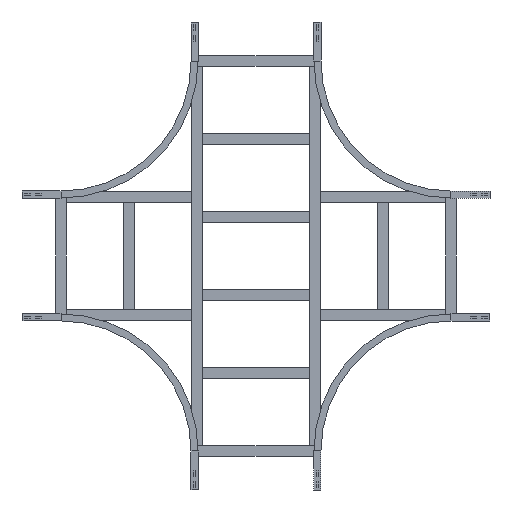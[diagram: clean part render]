
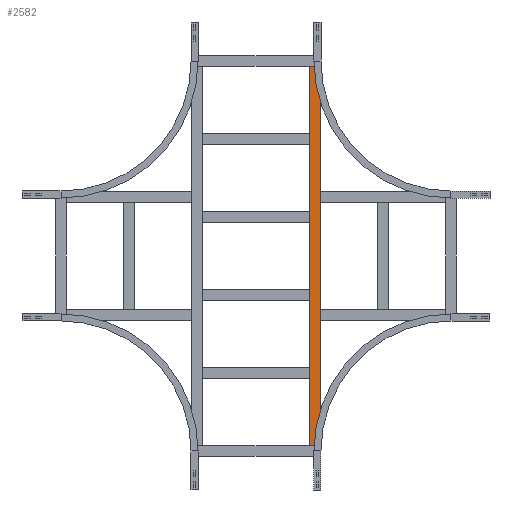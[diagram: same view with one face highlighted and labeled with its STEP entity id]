
A CAD part, front view. The second image highlights one B-rep face of the part: STEP entity #2582.
In plain terms, the highlighted planar face has unit normal (0, -1, 0).
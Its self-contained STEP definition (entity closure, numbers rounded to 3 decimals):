
#102 = LINE ( 'NONE', #2567, #103 ) ;
#103 = VECTOR ( 'NONE', #963, 1000. ) ;
#136 = CARTESIAN_POINT ( 'NONE',  ( 729.75, 0., -20.25 ) ) ;
#202 = EDGE_CURVE ( 'NONE', #1498, #1830, #602, .T. ) ;
#222 = ORIENTED_EDGE ( 'NONE', *, *, #2554, .T. ) ;
#293 = VECTOR ( 'NONE', #703, 1000. ) ;
#543 = DIRECTION ( 'NONE',  ( -1., 0., 0. ) ) ;
#602 = LINE ( 'NONE', #1474, #2222 ) ;
#703 = DIRECTION ( 'NONE',  ( 0., 0., -1. ) ) ;
#716 = CARTESIAN_POINT ( 'NONE',  ( 729.75, 0., 20.25 ) ) ;
#809 = DIRECTION ( 'NONE',  ( 0., 1., 0. ) ) ;
#963 = DIRECTION ( 'NONE',  ( -1., 0., 0. ) ) ;
#1013 = VERTEX_POINT ( 'NONE', #2596 ) ;
#1057 = DIRECTION ( 'NONE',  ( 0., 0., -1. ) ) ;
#1059 = PLANE ( 'NONE',  #2431 ) ;
#1165 = ORIENTED_EDGE ( 'NONE', *, *, #1225, .F. ) ;
#1213 = EDGE_CURVE ( 'NONE', #1498, #1013, #102, .T. ) ;
#1225 = EDGE_CURVE ( 'NONE', #1830, #2738, #1864, .T. ) ;
#1363 = VECTOR ( 'NONE', #543, 1000. ) ;
#1474 = CARTESIAN_POINT ( 'NONE',  ( 729.75, 0., 20.25 ) ) ;
#1475 = CARTESIAN_POINT ( 'NONE',  ( 729.75, 0., 20.25 ) ) ;
#1498 = VERTEX_POINT ( 'NONE', #716 ) ;
#1738 = DIRECTION ( 'NONE',  ( 0., 0., 1. ) ) ;
#1810 = EDGE_LOOP ( 'NONE', ( #222, #1165, #2690, #2560 ) ) ;
#1830 = VERTEX_POINT ( 'NONE', #136 ) ;
#1864 = LINE ( 'NONE', #2332, #1363 ) ;
#1964 = FACE_OUTER_BOUND ( 'NONE', #1810, .T. ) ;
#2222 = VECTOR ( 'NONE', #1057, 1000. ) ;
#2301 = LINE ( 'NONE', #2528, #293 ) ;
#2332 = CARTESIAN_POINT ( 'NONE',  ( 729.75, 0., -20.25 ) ) ;
#2431 = AXIS2_PLACEMENT_3D ( 'NONE', #1475, #809, #1738 ) ;
#2528 = CARTESIAN_POINT ( 'NONE',  ( -729.75, 0., 20.25 ) ) ;
#2554 = EDGE_CURVE ( 'NONE', #1013, #2738, #2301, .T. ) ;
#2560 = ORIENTED_EDGE ( 'NONE', *, *, #1213, .T. ) ;
#2567 = CARTESIAN_POINT ( 'NONE',  ( 729.75, 0., 20.25 ) ) ;
#2582 = ADVANCED_FACE ( 'NONE', ( #1964 ), #1059, .F. ) ;
#2596 = CARTESIAN_POINT ( 'NONE',  ( -729.75, 0., 20.25 ) ) ;
#2690 = ORIENTED_EDGE ( 'NONE', *, *, #202, .F. ) ;
#2718 = CARTESIAN_POINT ( 'NONE',  ( -729.75, 0., -20.25 ) ) ;
#2738 = VERTEX_POINT ( 'NONE', #2718 ) ;
